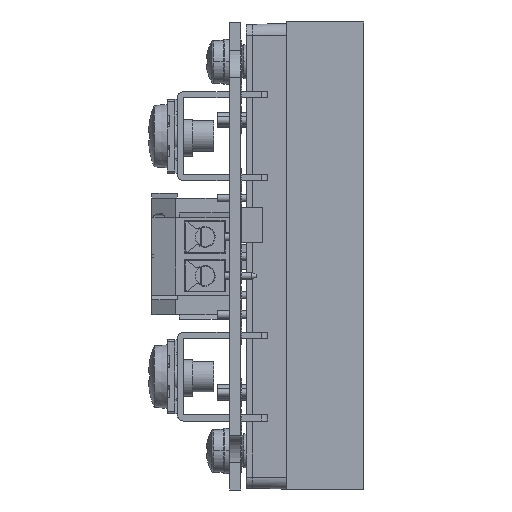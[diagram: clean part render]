
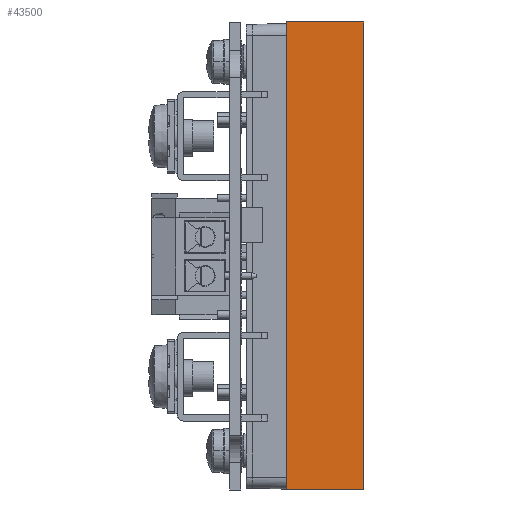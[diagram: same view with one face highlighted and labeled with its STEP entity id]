
A CAD part, left-side view. The second image highlights one B-rep face of the part: STEP entity #43500.
In plain terms, the highlighted planar face has unit normal (-1, 0, 0).
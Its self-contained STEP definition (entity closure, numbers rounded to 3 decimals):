
#416 = AXIS2_PLACEMENT_3D ( 'NONE', #25166, #37773, #81929 ) ;
#3334 = CARTESIAN_POINT ( 'NONE',  ( -42.5, -3.33, 30.6 ) ) ;
#4000 = LINE ( 'NONE', #4913, #12882 ) ;
#4246 = CARTESIAN_POINT ( 'NONE',  ( -42.5, 6.67, 0.1 ) ) ;
#4777 = VERTEX_POINT ( 'NONE', #79523 ) ;
#4913 = CARTESIAN_POINT ( 'NONE',  ( -42.5, 1.67, 30.6 ) ) ;
#6326 = VERTEX_POINT ( 'NONE', #3334 ) ;
#8717 = CARTESIAN_POINT ( 'NONE',  ( -42.5, -3.33, -30.4 ) ) ;
#12882 = VECTOR ( 'NONE', #42902, 1000. ) ;
#15102 = VECTOR ( 'NONE', #81901, 1000. ) ;
#18387 = ORIENTED_EDGE ( 'NONE', *, *, #77045, .T. ) ;
#18428 = DIRECTION ( 'NONE',  ( 0., 0., 1. ) ) ;
#19657 = FACE_OUTER_BOUND ( 'NONE', #45238, .T. ) ;
#25145 = CARTESIAN_POINT ( 'NONE',  ( -42.5, 1.67, -30.4 ) ) ;
#25166 = CARTESIAN_POINT ( 'NONE',  ( -42.5, -3.33, 30.6 ) ) ;
#32772 = VERTEX_POINT ( 'NONE', #51392 ) ;
#35510 = ORIENTED_EDGE ( 'NONE', *, *, #67428, .F. ) ;
#37773 = DIRECTION ( 'NONE',  ( 1., 0., 0. ) ) ;
#41995 = DIRECTION ( 'NONE',  ( 0., 0., 1. ) ) ;
#42902 = DIRECTION ( 'NONE',  ( 0., -1., 0. ) ) ;
#43500 = ADVANCED_FACE ( 'NONE', ( #19657 ), #62609, .F. ) ;
#44652 = LINE ( 'NONE', #25145, #15102 ) ;
#45238 = EDGE_LOOP ( 'NONE', ( #35510, #46516, #63098, #18387 ) ) ;
#45333 = VECTOR ( 'NONE', #41995, 1000. ) ;
#46516 = ORIENTED_EDGE ( 'NONE', *, *, #79371, .F. ) ;
#46597 = LINE ( 'NONE', #56205, #68401 ) ;
#51392 = CARTESIAN_POINT ( 'NONE',  ( -42.5, 6.67, 30.6 ) ) ;
#56205 = CARTESIAN_POINT ( 'NONE',  ( -42.5, -3.33, 0.1 ) ) ;
#57946 = EDGE_CURVE ( 'NONE', #61053, #4777, #44652, .T. ) ;
#61053 = VERTEX_POINT ( 'NONE', #8717 ) ;
#62609 = PLANE ( 'NONE',  #416 ) ;
#63098 = ORIENTED_EDGE ( 'NONE', *, *, #57946, .F. ) ;
#67428 = EDGE_CURVE ( 'NONE', #32772, #6326, #4000, .T. ) ;
#68401 = VECTOR ( 'NONE', #18428, 1000. ) ;
#72987 = LINE ( 'NONE', #4246, #45333 ) ;
#77045 = EDGE_CURVE ( 'NONE', #61053, #6326, #46597, .T. ) ;
#79371 = EDGE_CURVE ( 'NONE', #4777, #32772, #72987, .T. ) ;
#79523 = CARTESIAN_POINT ( 'NONE',  ( -42.5, 6.67, -30.4 ) ) ;
#81901 = DIRECTION ( 'NONE',  ( 0., 1., 0. ) ) ;
#81929 = DIRECTION ( 'NONE',  ( 0., 0., -1. ) ) ;
